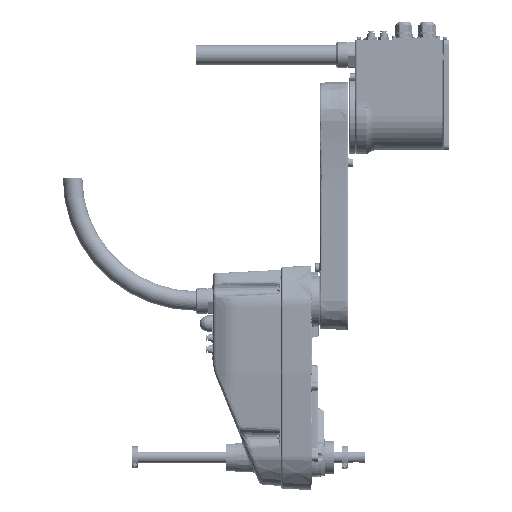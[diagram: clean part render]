
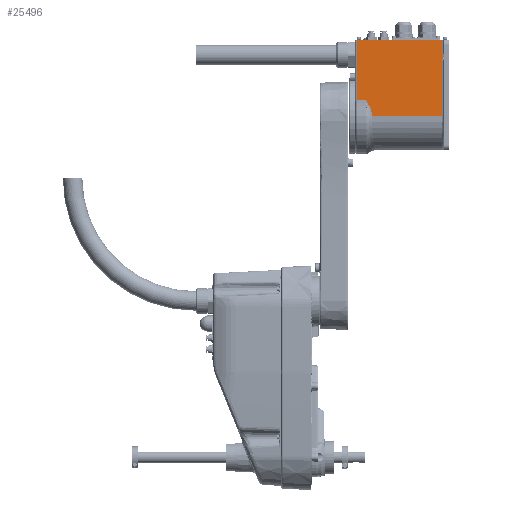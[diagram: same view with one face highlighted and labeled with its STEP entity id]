
A CAD part, left-side view. The second image highlights one B-rep face of the part: STEP entity #25496.
In plain terms, the highlighted planar face has unit normal (-1, 0, 0) as drawn and (0, 0, 1) by its records, which use the part's own axes.
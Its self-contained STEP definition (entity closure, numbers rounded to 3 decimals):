
#156=CARTESIAN_POINT('',(0.,135.835,64.5));
#873=DIRECTION('',(0.,-1.,0.));
#874=VECTOR('',#873,148.5);
#875=CARTESIAN_POINT('',(135.,161.5,64.5));
#876=LINE('',#875,#874);
#1933=CARTESIAN_POINT('',(14.788,138.958,64.5));
#1934=CARTESIAN_POINT('',(14.582,138.851,64.5));
#1935=CARTESIAN_POINT('',(14.155,138.638,64.5));
#1936=CARTESIAN_POINT('',(13.464,138.323,64.5));
#1937=CARTESIAN_POINT('',(12.721,138.015,64.5));
#1938=CARTESIAN_POINT('',(11.925,137.717,64.5));
#1939=CARTESIAN_POINT('',(11.076,137.431,64.5));
#1940=CARTESIAN_POINT('',(10.173,137.16,64.5));
#1941=CARTESIAN_POINT('',(9.215,136.905,64.5));
#1942=CARTESIAN_POINT('',(8.204,136.671,64.5));
#1943=CARTESIAN_POINT('',(7.143,136.459,64.5));
#1944=CARTESIAN_POINT('',(6.034,136.274,64.5));
#1945=CARTESIAN_POINT('',(4.883,136.118,64.5));
#1946=CARTESIAN_POINT('',(3.696,135.993,64.5));
#1947=CARTESIAN_POINT('',(2.48,135.902,64.5));
#1948=CARTESIAN_POINT('',(1.245,135.847,64.5));
#1949=CARTESIAN_POINT('',(0.416,135.835,64.5));
#1950=CARTESIAN_POINT('',(0.,135.835,64.5));
#1952=CARTESIAN_POINT('',(28.788,146.5,64.5));
#1953=CARTESIAN_POINT('',(26.995,145.518,64.5));
#1954=CARTESIAN_POINT('',(23.571,143.643,64.5));
#1955=CARTESIAN_POINT('',(18.897,141.118,64.5));
#1956=CARTESIAN_POINT('',(16.105,139.644,64.5));
#1957=CARTESIAN_POINT('',(14.788,138.958,64.5));
#1959=DIRECTION('',(0.,1.,0.));
#1960=VECTOR('',#1959,15.);
#1961=CARTESIAN_POINT('',(28.788,146.5,64.5));
#1962=LINE('',#1961,#1960);
#1963=DIRECTION('',(1.,0.,0.));
#1964=VECTOR('',#1963,106.212);
#1965=CARTESIAN_POINT('',(28.788,161.5,64.5));
#1966=LINE('',#1965,#1964);
#1967=DIRECTION('',(-1.,0.,0.));
#1968=VECTOR('',#1967,21.953);
#1969=CARTESIAN_POINT('',(135.,13.,64.5));
#1970=LINE('',#1969,#1968);
#1971=CARTESIAN_POINT('',(113.047,13.,64.5));
#1972=CARTESIAN_POINT('',(112.944,13.,64.5));
#1973=CARTESIAN_POINT('',(112.734,12.995,64.5));
#1974=CARTESIAN_POINT('',(112.407,12.972,64.5));
#1975=CARTESIAN_POINT('',(112.067,12.933,64.5));
#1976=CARTESIAN_POINT('',(111.712,12.876,64.5));
#1977=CARTESIAN_POINT('',(111.342,12.799,64.5));
#1978=CARTESIAN_POINT('',(110.956,12.701,64.5));
#1979=CARTESIAN_POINT('',(110.55,12.579,64.5));
#1980=CARTESIAN_POINT('',(110.124,12.432,64.5));
#1981=CARTESIAN_POINT('',(109.672,12.255,64.5));
#1982=CARTESIAN_POINT('',(109.19,12.043,64.5));
#1983=CARTESIAN_POINT('',(108.668,11.789,64.5));
#1984=CARTESIAN_POINT('',(108.091,11.482,64.5));
#1985=CARTESIAN_POINT('',(107.442,11.106,64.5));
#1986=CARTESIAN_POINT('',(106.716,10.653,64.5));
#1987=CARTESIAN_POINT('',(105.905,10.118,64.5));
#1988=CARTESIAN_POINT('',(105.312,9.713,64.5));
#1989=CARTESIAN_POINT('',(105.,9.5,64.5));
#1991=CARTESIAN_POINT('',(96.953,13.,64.5));
#1992=CARTESIAN_POINT('',(97.056,13.,64.5));
#1993=CARTESIAN_POINT('',(97.266,12.995,64.5));
#1994=CARTESIAN_POINT('',(97.593,12.972,64.5));
#1995=CARTESIAN_POINT('',(97.933,12.933,64.5));
#1996=CARTESIAN_POINT('',(98.288,12.876,64.5));
#1997=CARTESIAN_POINT('',(98.658,12.799,64.5));
#1998=CARTESIAN_POINT('',(99.044,12.701,64.5));
#1999=CARTESIAN_POINT('',(99.45,12.579,64.5));
#2000=CARTESIAN_POINT('',(99.876,12.432,64.5));
#2001=CARTESIAN_POINT('',(100.328,12.255,64.5));
#2002=CARTESIAN_POINT('',(100.81,12.043,64.5));
#2003=CARTESIAN_POINT('',(101.332,11.79,64.5));
#2004=CARTESIAN_POINT('',(101.909,11.482,64.5));
#2005=CARTESIAN_POINT('',(102.558,11.106,64.5));
#2006=CARTESIAN_POINT('',(103.283,10.654,64.5));
#2007=CARTESIAN_POINT('',(104.094,10.118,64.5));
#2008=CARTESIAN_POINT('',(104.688,9.713,64.5));
#2009=CARTESIAN_POINT('',(105.,9.5,64.5));
#2011=DIRECTION('',(1.,0.,0.));
#2012=VECTOR('',#2011,96.953);
#2013=CARTESIAN_POINT('',(0.,13.,64.5));
#2014=LINE('',#2013,#2012);
#2015=DIRECTION('',(0.,-1.,0.));
#2016=VECTOR('',#2015,122.835);
#2017=CARTESIAN_POINT('',(0.,135.835,64.5));
#2018=LINE('',#2017,#2016);
#18522=CARTESIAN_POINT('',(135.,161.5,64.5));
#18524=VERTEX_POINT('',#18522);
#18525=CARTESIAN_POINT('',(28.788,161.5,64.5));
#18526=VERTEX_POINT('',#18525);
#19362=VERTEX_POINT('',#1971);
#19363=VERTEX_POINT('',#1989);
#19367=CARTESIAN_POINT('',(135.,13.,64.5));
#19368=VERTEX_POINT('',#19367);
#19381=VERTEX_POINT('',#1991);
#19384=CARTESIAN_POINT('',(0.,13.,64.5));
#19385=VERTEX_POINT('',#19384);
#19409=VERTEX_POINT('',#156);
#19412=VERTEX_POINT('',#1933);
#19413=VERTEX_POINT('',#1952);
#25472=CARTESIAN_POINT('',(-60.,10.,64.5));
#25473=DIRECTION('',(0.,0.,1.));
#25474=DIRECTION('',(0.,1.,0.));
#25475=AXIS2_PLACEMENT_3D('',#25472,#25473,#25474);
#25476=PLANE('',#25475);
#25478=ORIENTED_EDGE('',*,*,#25477,.F.);
#25480=ORIENTED_EDGE('',*,*,#25479,.F.);
#25482=ORIENTED_EDGE('',*,*,#25481,.T.);
#25484=ORIENTED_EDGE('',*,*,#25483,.T.);
#25485=ORIENTED_EDGE('',*,*,#24220,.T.);
#25487=ORIENTED_EDGE('',*,*,#25486,.T.);
#25489=ORIENTED_EDGE('',*,*,#25488,.T.);
#25491=ORIENTED_EDGE('',*,*,#25490,.F.);
#25492=ORIENTED_EDGE('',*,*,#25314,.F.);
#25493=ORIENTED_EDGE('',*,*,#22814,.F.);
#25494=EDGE_LOOP('',(#25478,#25480,#25482,#25484,#25485,#25487,#25489,#25491,
#25492,#25493));
#25495=FACE_OUTER_BOUND('',#25494,.F.);
#25496=ADVANCED_FACE('',(#25495),#25476,.T.);
#1951=B_SPLINE_CURVE_WITH_KNOTS('',3,(#1933,#1934,#1935,#1936,#1937,#1938,#1939,
#1940,#1941,#1942,#1943,#1944,#1945,#1946,#1947,#1948,#1949,#1950),
.UNSPECIFIED.,.F.,.F.,(4,1,1,1,1,1,1,1,1,1,1,1,1,1,1,4),(0.,0.067,
0.133,0.2,0.267,0.333,0.4,
0.467,0.533,0.6,0.667,0.733,
0.8,0.867,0.933,1.),.UNSPECIFIED.);
#1958=B_SPLINE_CURVE_WITH_KNOTS('',3,(#1952,#1953,#1954,#1955,#1956,#1957),
.UNSPECIFIED.,.F.,.F.,(4,1,1,4),(0.,0.333,0.667,1.),
.UNSPECIFIED.);
#1990=B_SPLINE_CURVE_WITH_KNOTS('',3,(#1971,#1972,#1973,#1974,#1975,#1976,#1977,
#1978,#1979,#1980,#1981,#1982,#1983,#1984,#1985,#1986,#1987,#1988,#1989),
.UNSPECIFIED.,.F.,.F.,(4,1,1,1,1,1,1,1,1,1,1,1,1,1,1,1,4),(0.,0.063,0.125,
0.188,0.25,0.313,0.375,0.438,0.5,0.563,0.625,0.688,
0.75,0.813,0.875,0.938,1.),.UNSPECIFIED.);
#2010=B_SPLINE_CURVE_WITH_KNOTS('',3,(#1991,#1992,#1993,#1994,#1995,#1996,#1997,
#1998,#1999,#2000,#2001,#2002,#2003,#2004,#2005,#2006,#2007,#2008,#2009),
.UNSPECIFIED.,.F.,.F.,(4,1,1,1,1,1,1,1,1,1,1,1,1,1,1,1,4),(0.,0.063,0.125,
0.188,0.25,0.313,0.375,0.438,0.5,0.563,0.625,0.688,
0.75,0.813,0.875,0.938,1.),.UNSPECIFIED.);
#22814=EDGE_CURVE('',#19409,#19385,#2018,.T.);
#24220=EDGE_CURVE('',#18524,#19368,#876,.T.);
#25314=EDGE_CURVE('',#19385,#19381,#2014,.T.);
#25477=EDGE_CURVE('',#19412,#19409,#1951,.T.);
#25479=EDGE_CURVE('',#19413,#19412,#1958,.T.);
#25481=EDGE_CURVE('',#19413,#18526,#1962,.T.);
#25483=EDGE_CURVE('',#18526,#18524,#1966,.T.);
#25486=EDGE_CURVE('',#19368,#19362,#1970,.T.);
#25488=EDGE_CURVE('',#19362,#19363,#1990,.T.);
#25490=EDGE_CURVE('',#19381,#19363,#2010,.T.);
